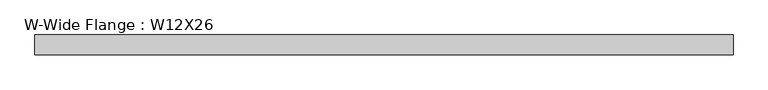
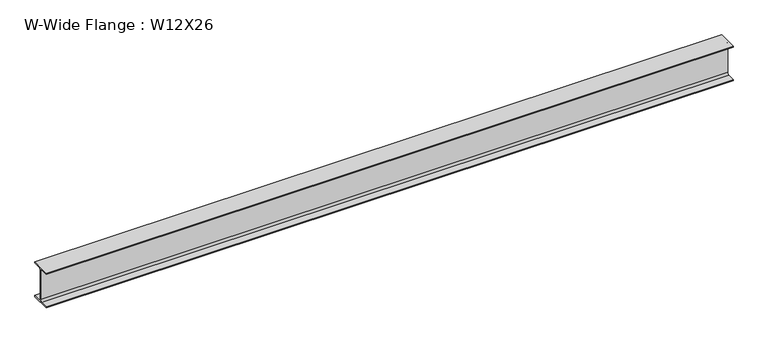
"""IFC4 building model written with IfcOpenShell, lengths in millimetres: beam geometry, W-Wide Flange : W12X26."""

import ifcopenshell
import ifcopenshell.guid

model = None  # the IFC model being written
_history = None  # IfcOwnerHistory: only IFC2X3 demands one
_inside = {}  # id of a spatial element -> (the spatial element, [elements in it])
_under = {}  # id of a project, library or spatial element -> (it, [spatial elements below it])
_declared = {}  # id of a project -> (the project, [libraries it declares])
_typed = {}  # id of a type object -> (the type object, [elements of that type])
_made_of = {}  # id of a material, layer set ... -> (it, [elements and type objects made of it])


def new_model(schema):
    """Start an empty IFC model of exactly this schema.

    Asked for "IFC4X3", IfcOpenShell would pick the latest addendum, in which some entities
    have other attributes; the version numbers below select the first issue.
    IFC2X3 requires an IfcOwnerHistory on every rooted entity: one is made here for all.
    """
    global model, _history
    if schema == "IFC4X3":
        model = ifcopenshell.file(schema_version=(4, 3, 0, 0))
    else:
        model = ifcopenshell.file(schema=schema)
    _inside.clear()
    _under.clear()
    _declared.clear()
    _typed.clear()
    _made_of.clear()
    _history = None
    if model.schema == "IFC2X3":
        org = make("IfcOrganization", Name="unknown")
        user = make(
            "IfcPersonAndOrganization",
            ThePerson=make("IfcPerson", FamilyName="unknown"),
            TheOrganization=org,
        )
        app = make(
            "IfcApplication",
            ApplicationDeveloper=org,
            Version="unknown",
            ApplicationFullName="unknown",
            ApplicationIdentifier="unknown",
        )
        _history = make(
            "IfcOwnerHistory",
            OwningUser=user,
            OwningApplication=app,
            ChangeAction="ADDED",
            CreationDate=0,
        )
    return model


def make(cls, **values):
    """One entity of the class cls with the attributes given. An attribute that is None is left unset."""
    return model.create_entity(
        cls, **{name: value for name, value in values.items() if value is not None}
    )


def rooted(cls, **values):
    """An entity with a GlobalId (a new one), such as an element, a storey or a relation."""
    return make(cls, GlobalId=ifcopenshell.guid.new(), OwnerHistory=_history, **values)


def si_unit(unit_type, name, prefix=None):
    """IfcSIUnit, for example si_unit("LENGTHUNIT", "METRE", prefix="MILLI")."""
    return make("IfcSIUnit", UnitType=unit_type, Prefix=prefix, Name=name)


def assignment(units):
    """IfcUnitAssignment: the units of a project."""
    return None if units is None else make("IfcUnitAssignment", Units=units)


def point(xyz):
    """IfcCartesianPoint."""
    return None if xyz is None else make("IfcCartesianPoint", Coordinates=xyz)


def direction(xyz):
    """IfcDirection."""
    return None if xyz is None else make("IfcDirection", DirectionRatios=xyz)


def frame(location, z_axis=None, x_axis=None):
    """IfcAxis2Placement3D, a coordinate frame: its origin and axes. An axis left out is left unset."""
    return make(
        "IfcAxis2Placement3D",
        Location=point(location),
        Axis=direction(z_axis),
        RefDirection=direction(x_axis),
    )


def frame_2d(location, x_axis=None):
    """IfcAxis2Placement2D, a coordinate frame in the plane: its origin and x axis."""
    return make(
        "IfcAxis2Placement2D", Location=point(location), RefDirection=direction(x_axis)
    )


def origin():
    """The frame at (0, 0, 0) with its axes left unset."""
    return frame((0.0, 0.0, 0.0))


def place(relative_to, where):
    """IfcLocalPlacement: puts the frame where relative to a parent placement (None: the world)."""
    return make(
        "IfcLocalPlacement", PlacementRelTo=relative_to, RelativePlacement=where
    )


def context(
    kind, dimensions, precision=None, world=None, true_north=None, identifier=None
):
    """IfcGeometricRepresentationContext, for example the 3D "Model" context."""
    return make(
        "IfcGeometricRepresentationContext",
        ContextIdentifier=identifier,
        ContextType=kind,
        CoordinateSpaceDimension=dimensions,
        Precision=precision,
        WorldCoordinateSystem=world,
        TrueNorth=true_north,
    )


def project(units=None, contexts=None):
    """IfcProject with its units and contexts."""
    return rooted(
        "IfcProject",
        Name="project",
        RepresentationContexts=contexts,
        UnitsInContext=assignment(units),
    )


def spatial(cls, under=None, at=None, **own):
    """A site, building, storey or space (cls), placed at a placement, below another one or the project."""
    s = rooted(cls, ObjectPlacement=at, **own)
    if under is not None:
        _under.setdefault(under.id(), (under, []))[1].append(s)
    return s


def polyline(points):
    """IfcPolyline through the points."""
    return make("IfcPolyline", Points=[point(p) for p in points])


def circle_curve(where, radius):
    """IfcCircle in the frame where."""
    return make("IfcCircle", Position=where, Radius=radius)


def trimmed(basis, trim1, trim2, sense, master):
    """IfcTrimmedCurve: the piece of a basis curve between two trims."""
    return make(
        "IfcTrimmedCurve",
        BasisCurve=basis,
        Trim1=trim1,
        Trim2=trim2,
        SenseAgreement=sense,
        MasterRepresentation=master,
    )


def segment(curve, same_sense, transition):
    """IfcCompositeCurveSegment."""
    return make(
        "IfcCompositeCurveSegment",
        Transition=transition,
        SameSense=same_sense,
        ParentCurve=curve,
    )


def composite_curve(segments, self_intersect=None):
    """IfcCompositeCurve: segments joined end to end."""
    return make("IfcCompositeCurve", Segments=segments, SelfIntersect=self_intersect)


def outline(outer, holes=None, kind="AREA"):
    """IfcArbitraryClosedProfileDef: a profile drawn as a closed curve; with holes, ...WithVoids."""
    if holes is None:
        return make("IfcArbitraryClosedProfileDef", ProfileType=kind, OuterCurve=outer)
    return make(
        "IfcArbitraryProfileDefWithVoids",
        ProfileType=kind,
        OuterCurve=outer,
        InnerCurves=holes,
    )


def extrude(swept, where, along, depth):
    """IfcExtrudedAreaSolid: the profile swept, set in the frame where, extruded along a direction by depth."""
    return make(
        "IfcExtrudedAreaSolid",
        SweptArea=swept,
        Position=where,
        ExtrudedDirection=direction(along),
        Depth=depth,
    )


def shape(context_of_items, identifier, shape_type, items):
    """IfcShapeRepresentation: the items that make up one representation, for example the "Body"."""
    return make(
        "IfcShapeRepresentation",
        ContextOfItems=context_of_items,
        RepresentationIdentifier=identifier,
        RepresentationType=shape_type,
        Items=items,
    )


def source(mapping_origin, context_of_items, identifier, shape_type, items):
    """IfcRepresentationMap: a shape defined once, which mapped items show again and again."""
    return make(
        "IfcRepresentationMap",
        MappingOrigin=mapping_origin,
        MappedRepresentation=shape(context_of_items, identifier, shape_type, items),
    )


def transform(
    local_origin,
    x_axis=None,
    y_axis=None,
    z_axis=None,
    scale=None,
    scale2=None,
    scale3=None,
    uniform=True,
):
    """IfcCartesianTransformationOperator3D, or its non-uniform kind. x_axis, y_axis, z_axis: its Axis1, 2, 3."""
    if uniform:
        return make(
            "IfcCartesianTransformationOperator3D",
            Axis1=direction(x_axis),
            Axis2=direction(y_axis),
            LocalOrigin=point(local_origin),
            Scale=scale,
            Axis3=direction(z_axis),
        )
    return make(
        "IfcCartesianTransformationOperator3DnonUniform",
        Axis1=direction(x_axis),
        Axis2=direction(y_axis),
        LocalOrigin=point(local_origin),
        Scale=scale,
        Axis3=direction(z_axis),
        Scale2=scale2,
        Scale3=scale3,
    )


def mapped(mapping_source, mapping_target):
    """IfcMappedItem: shows the shape of a source again, moved by a transform."""
    return make(
        "IfcMappedItem", MappingSource=mapping_source, MappingTarget=mapping_target
    )


def made_of(thing, what):
    """Note that an element or type object is made of a material, layer set ...; save() writes the relation."""
    if what is not None:
        _made_of.setdefault(what.id(), (what, []))[1].append(thing)
    return thing


def element(
    cls,
    number,
    at=None,
    inside=None,
    cuts=None,
    type_object=None,
    material=None,
    context=None,
    identifier="Body",
    shape_type=None,
    held_by="IfcProductDefinitionShape",
    body=None,
    shapes=None,
    **own,
):
    """One element of the class cls, such as IfcWall. Its Tag is "e" and its number.

    at: its placement. inside: the storey or other place that contains it. cuts: it is an
    opening in that element (IfcRelVoidsElement). A single representation is given by context,
    identifier, shape_type and body (its items); several are given by shapes. held_by: the class
    of the entity that holds the representations. save() writes the other relations.
    """
    e = rooted(cls, Tag="e%d" % number, ObjectPlacement=at, **own)
    if body is not None:
        shapes = [shape(context, identifier, shape_type, body)]
    if shapes is not None:
        e.Representation = make(held_by, Representations=shapes)
    if inside is not None:
        _inside.setdefault(inside.id(), (inside, []))[1].append(e)
    if cuts is not None:
        rooted(
            "IfcRelVoidsElement", RelatingBuildingElement=cuts, RelatedOpeningElement=e
        )
    if type_object is not None:
        _typed.setdefault(type_object.id(), (type_object, []))[1].append(e)
    return made_of(e, material)


def aggregate(whole, parts):
    """IfcRelAggregates: a whole, such as a stair, and the parts it consists of."""
    return rooted("IfcRelAggregates", RelatingObject=whole, RelatedObjects=parts)


def save(model, path):
    """Write the relations noted so far, then the file.

    IfcRelAggregates (storeys below a building ...), IfcRelContainedInSpatialStructure (elements
    in a storey), IfcRelDefinesByType, IfcRelAssociatesMaterial and IfcRelDeclares: one each for
    every whole, place, type object, material and project.
    """
    for whole, parts in _under.values():
        aggregate(whole, parts)
    for where, things in _inside.values():
        rooted(
            "IfcRelContainedInSpatialStructure",
            RelatedElements=things,
            RelatingStructure=where,
        )
    for kind, things in _typed.values():
        rooted("IfcRelDefinesByType", RelatedObjects=things, RelatingType=kind)
    for what, things in _made_of.values():
        rooted("IfcRelAssociatesMaterial", RelatedObjects=things, RelatingMaterial=what)
    for by, libraries in _declared.values():
        rooted("IfcRelDeclares", RelatingContext=by, RelatedDefinitions=libraries)
    model.write(path)


def w_wide_flange_w12x26_c83151a5(model_context):
    return source(origin(), model_context, "Body", "SweptSolid", [
        extrude(outline(composite_curve([segment(polyline([(82.4011719, -145.5539063), (82.4011719, -155.178125), (-82.4011719, -155.178125), (-82.4011719, -145.5539063), (-20.2902344, -145.5539063)]), True, "CONTINUOUS"), segment(trimmed(circle_curve(frame_2d((-20.2902344, -128.190625)), 17.3632812), [point((-20.2902344, -145.5539063))], [point((-2.9269531, -128.190625))], True, "CARTESIAN"), True, "CONTINUOUS"), segment(polyline([(-2.9269531, -128.190625), (-2.9269531, 128.190625)]), True, "CONTINUOUS"), segment(trimmed(circle_curve(frame_2d((-20.2902344, 128.190625)), 17.3632812), [point((-2.9269531, 128.190625))], [point((-20.2902344, 145.5539062))], True, "CARTESIAN"), True, "CONTINUOUS"), segment(polyline([(-20.2902344, 145.5539062), (-82.4011719, 145.5539062), (-82.4011719, 155.178125), (82.4011719, 155.178125), (82.4011719, 145.5539062), (20.2902344, 145.5539062)]), True, "CONTINUOUS"), segment(trimmed(circle_curve(frame_2d((20.2902344, 128.190625)), 17.3632812), [point((20.2902344, 145.5539062))], [point((2.9269531, 128.190625))], True, "CARTESIAN"), True, "CONTINUOUS"), segment(polyline([(2.9269531, 128.190625), (2.9269531, -128.190625)]), True, "CONTINUOUS"), segment(trimmed(circle_curve(frame_2d((20.2902344, -128.190625)), 17.3632812), [point((2.9269531, -128.190625))], [point((20.2902344, -145.5539063))], True, "CARTESIAN"), True, "CONTINUOUS"), segment(polyline([(20.2902344, -145.5539063), (82.4011719, -145.5539063)]), True, "CONTINUOUS")], self_intersect=False)), frame((-2911.7230469, 0.0, 0.0), z_axis=(1.0, 0.0, 0.0), x_axis=(0.0, 1.0, 0.0)), (0.0, 0.0, 1.0), 5823.4460937),
    ])


if __name__ == "__main__":
    model = new_model("IFC4")
    model_context = context("Model", 3, world=origin())
    ifc_project = project(units=[si_unit("LENGTHUNIT", "METRE", prefix="MILLI")], contexts=[model_context])
    site = spatial("IfcSite", under=ifc_project)
    building = spatial("IfcBuilding", under=site)
    placement = place(None, origin())
    w_wide_flange_w12x26_shape = w_wide_flange_w12x26_c83151a5(model_context)
    element("IfcBeam", 1, ObjectType="W-Wide Flange : W12X26", at=placement, inside=building, context=model_context, shape_type="MappedRepresentation", body=[
        mapped(w_wide_flange_w12x26_shape, transform((0.0, 0.0, 0.0), x_axis=(1.0, 0.0, 0.0), y_axis=(0.0, 1.0, 0.0), z_axis=(0.0, 0.0, 1.0))),
    ])
    save(model, "model.ifc")
